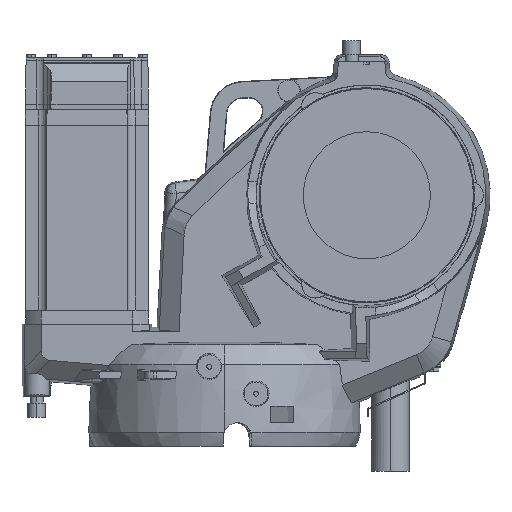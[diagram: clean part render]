
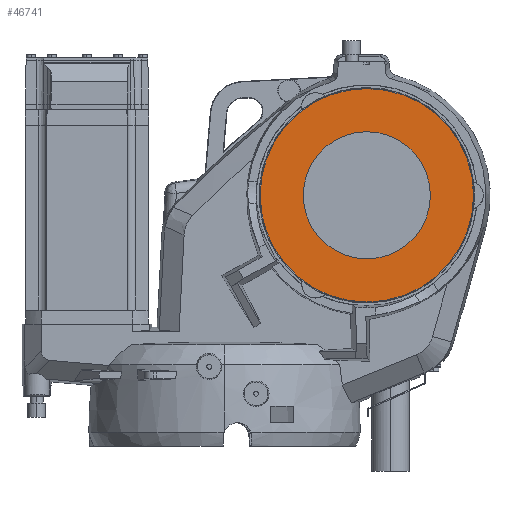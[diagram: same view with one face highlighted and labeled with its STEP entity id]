
A CAD part, front view. The second image highlights one B-rep face of the part: STEP entity #46741.
In plain terms, the highlighted planar face has unit normal (0, -1, 0).
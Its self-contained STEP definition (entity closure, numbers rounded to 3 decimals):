
#664 = DIRECTION ( 'NONE',  ( 0., -1., 0. ) ) ;
#1104 = AXIS2_PLACEMENT_3D ( 'NONE', #22890, #664, #26492 ) ;
#4204 = CARTESIAN_POINT ( 'NONE',  ( 263.914, -145.4, 403.494 ) ) ;
#4774 = CIRCLE ( 'NONE', #19096, 112.5 ) ;
#5192 = PLANE ( 'NONE',  #26210 ) ;
#6565 = DIRECTION ( 'NONE',  ( 0., -1., 0. ) ) ;
#11432 = AXIS2_PLACEMENT_3D ( 'NONE', #28477, #6565, #32091 ) ;
#12765 = DIRECTION ( 'NONE',  ( -1., 0., 0. ) ) ;
#16293 = EDGE_LOOP ( 'NONE', ( #27713, #39438 ) ) ;
#16302 = DIRECTION ( 'NONE',  ( 0., 1., 0. ) ) ;
#16438 = VERTEX_POINT ( 'NONE', #45026 ) ;
#16665 = CARTESIAN_POINT ( 'NONE',  ( 150., -145.4, 445. ) ) ;
#17087 = ORIENTED_EDGE ( 'NONE', *, *, #20361, .F. ) ;
#17153 = EDGE_CURVE ( 'NONE', #16438, #23847, #42945, .T. ) ;
#17526 = CARTESIAN_POINT ( 'NONE',  ( 37.5, -145.4, 445. ) ) ;
#18324 = CIRCLE ( 'NONE', #37732, 112.5 ) ;
#19096 = AXIS2_PLACEMENT_3D ( 'NONE', #16665, #41627, #20269 ) ;
#19920 = FACE_OUTER_BOUND ( 'NONE', #46803, .T. ) ;
#20269 = DIRECTION ( 'NONE',  ( 1., 0., 0. ) ) ;
#20361 = EDGE_CURVE ( 'NONE', #31026, #27881, #4774, .T. ) ;
#22083 = ORIENTED_EDGE ( 'NONE', *, *, #25144, .F. ) ;
#22890 = CARTESIAN_POINT ( 'NONE',  ( 150., -145.4, 445. ) ) ;
#23847 = VERTEX_POINT ( 'NONE', #32835 ) ;
#25144 = EDGE_CURVE ( 'NONE', #27881, #31026, #18324, .T. ) ;
#26210 = AXIS2_PLACEMENT_3D ( 'NONE', #4204, #34364, #12765 ) ;
#26492 = DIRECTION ( 'NONE',  ( 1., 0., 0. ) ) ;
#27713 = ORIENTED_EDGE ( 'NONE', *, *, #42602, .F. ) ;
#27881 = VERTEX_POINT ( 'NONE', #35970 ) ;
#28318 = FACE_BOUND ( 'NONE', #16293, .T. ) ;
#28477 = CARTESIAN_POINT ( 'NONE',  ( 150., -145.4, 445. ) ) ;
#31026 = VERTEX_POINT ( 'NONE', #17526 ) ;
#32091 = DIRECTION ( 'NONE',  ( 1., 0., 0. ) ) ;
#32835 = CARTESIAN_POINT ( 'NONE',  ( 217., -145.4, 445. ) ) ;
#34364 = DIRECTION ( 'NONE',  ( 0., 1., 0. ) ) ;
#35392 = CIRCLE ( 'NONE', #11432, 67. ) ;
#35970 = CARTESIAN_POINT ( 'NONE',  ( 262.5, -145.4, 445. ) ) ;
#37712 = CARTESIAN_POINT ( 'NONE',  ( 150., -145.4, 445. ) ) ;
#37732 = AXIS2_PLACEMENT_3D ( 'NONE', #37712, #16302, #41300 ) ;
#39438 = ORIENTED_EDGE ( 'NONE', *, *, #17153, .F. ) ;
#41300 = DIRECTION ( 'NONE',  ( 1., 0., 0. ) ) ;
#41627 = DIRECTION ( 'NONE',  ( 0., 1., 0. ) ) ;
#42602 = EDGE_CURVE ( 'NONE', #23847, #16438, #35392, .T. ) ;
#42945 = CIRCLE ( 'NONE', #1104, 67. ) ;
#45026 = CARTESIAN_POINT ( 'NONE',  ( 83., -145.4, 445. ) ) ;
#46741 = ADVANCED_FACE ( 'NONE', ( #19920, #28318 ), #5192, .F. ) ;
#46803 = EDGE_LOOP ( 'NONE', ( #22083, #17087 ) ) ;
